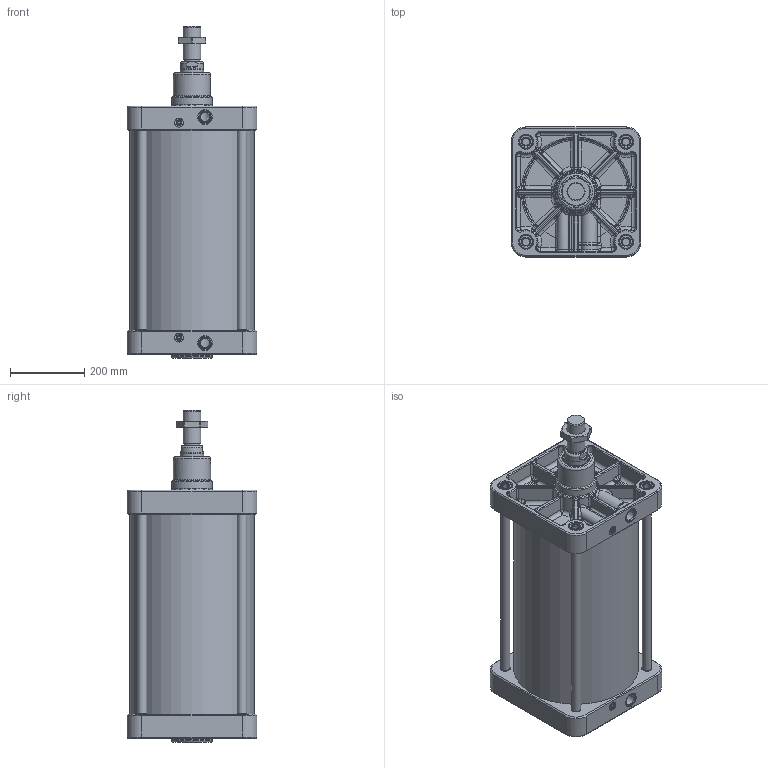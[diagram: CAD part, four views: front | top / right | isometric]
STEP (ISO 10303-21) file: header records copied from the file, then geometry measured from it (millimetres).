
FILE_DESCRIPTION(/* description */ (''),/* implementation_level */ '2;1');
FILE_NAME(/* name */ 'T:\Archivio Inventor\- 00 NUOVI STP PER SITO CON STELO CHE SI MUOVE\SERIE H - U\SERIE UDM\UDM320.---.GS.M\UDM320.450.GS.M.stp',/* time_stamp */ '2020-04-29T16:31:14+02:00',/* author */ ('carlo.corazza'),/* organization */ (''),/* preprocessor_version */ 'ST-DEVELOPER v16.5',/* originating_system */ 'Autodesk Inventor 2017',/* authorisation */ '');
FILE_SCHEMA (('AUTOMOTIVE_DESIGN { 1 0 10303 214 3 1 1 }'));
Length unit declared in the file: millimetre
Products named in the file (7): UDM320.450.GS.M; TP; STELO-450; TA; CORPO-450; TIRANTE-450; 29.2048.000.0
Assembly tree (9 placements, depth 2):
  UDM320.450.GS.M
    TP
    STELO-450
    TA
    TIRANTE-450  x4
    CORPO-450
    29.2048.000.0
Bounding box: 350 x 350 x 896 mm (x, y, z)
Volume: 17033900.8 mm3; surface area: 2625558.9 mm2
Topology: 9 solids, 16 shells, 1710 faces, 3937 edges, 2221 vertices
Faces by surface type: cylinder 439, bspline 432, plane 380, torus 252, cone 115, sphere 92
Full cylindrical faces by diameter (mm): 8 x2, 9 x1, 10 x1, 11 x2, 11.2 x2, 12 x2, 12.376 x1, 13.4 x4, 14 x2, 15.8 x4, 16 x6, 20.752 x8, 24 x10, 24.5 x8, 25 x6, 30.291 x2, 36 x9, 37 x8, 40 x2, 44.8 x1, 45.835 x1, 48 x1, 62 x1, 63 x1, 64 x1, 64.293 x1, 65.8 x1, 73 x1, 75 x3, 100 x1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
Entity records: 64917 total; most frequent: CARTESIAN_POINT 27888, DIRECTION 7314, ORIENTED_EDGE 7088, EDGE_CURVE 3544, AXIS2_PLACEMENT_3D 3113, VERTEX_POINT 2134, EDGE_LOOP 1966, FACE_OUTER_BOUND 1683
